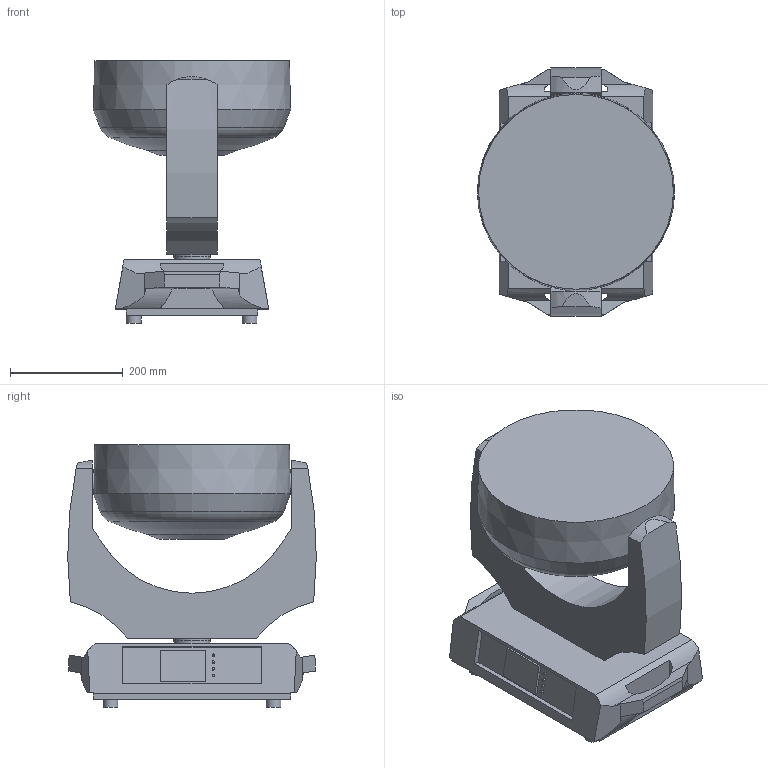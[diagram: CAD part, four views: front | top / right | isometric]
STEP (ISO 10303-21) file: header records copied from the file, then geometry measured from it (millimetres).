
FILE_DESCRIPTION(/* description */ ('Unknown'),/* implementation_level */ '2;1');
FILE_NAME(/* name */ 'RLW1200_00_',/* time_stamp */ '2020-06-11T15:44:12+02:00',/* author */ ('Ing.Rostislav HĂˇba'),/* organization */ ('ROBE lighting'),/* preprocessor_version */ 'ST-DEVELOPER v16.7',/* originating_system */ 'Solid Edge',/* authorisation */ 'Unknown');
FILE_SCHEMA (('AUTOMOTIVE_DESIGN {1 0 10303 214 3 1 1}'));
Length unit declared in the file: millimetre
Products named in the file (4): RLW1200_00; Robin300Spot_Základna; RLW1200_rameno; RLW1200_hlava
Assembly tree (3 placements, depth 2):
  RLW1200_00
    Robin300Spot_Základna
    RLW1200_rameno
    RLW1200_hlava
Bounding box: 350.42 x 441.57 x 466.96 mm (x, y, z)
Volume: 27962507.1 mm3; surface area: 949065.3 mm2
Topology: 3 solids, 3 shells, 126 faces, 308 edges, 208 vertices
Faces by surface type: plane 83, cylinder 38, cone 3, sphere 1, torus 1
Full cylindrical faces by diameter (mm): 3.634 x1, 4 x3, 10 x8, 26 x4, 30.65 x2, 40 x2, 44.874 x1, 65.661 x2
Entity records: 3659 total; most frequent: CARTESIAN_POINT 716, DIRECTION 602, ORIENTED_EDGE 530, EDGE_CURVE 265, AXIS2_PLACEMENT_3D 223, VERTEX_POINT 193, EDGE_LOOP 178, FACE_BOUND 178
